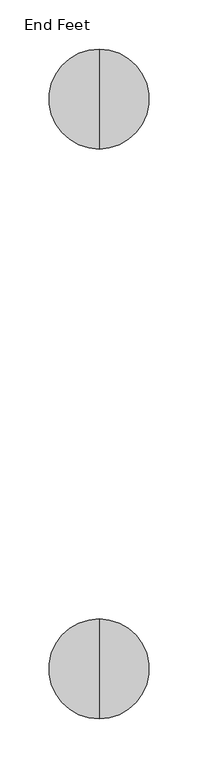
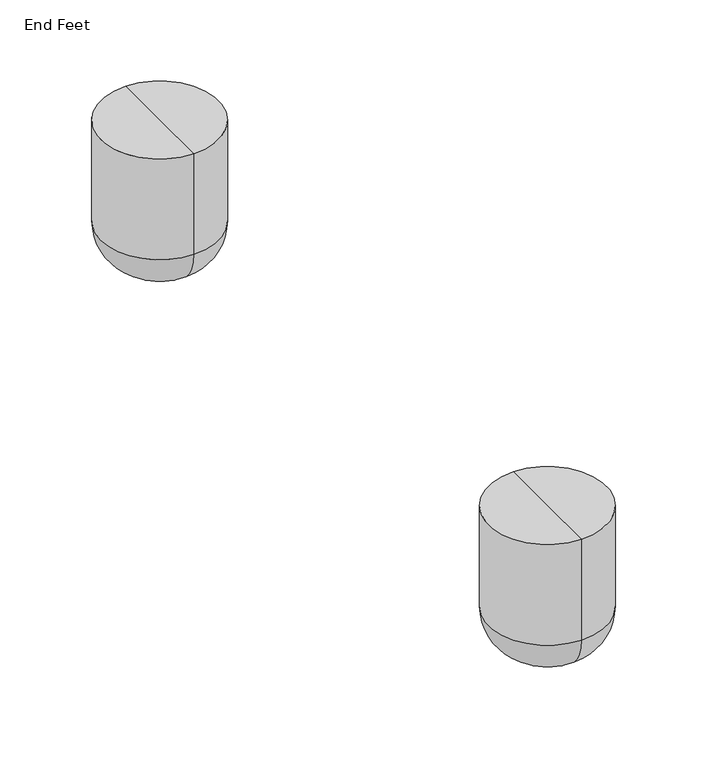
"""IFC4 building model written with IfcOpenShell, lengths in millimetres: furniture geometry, Coalesse_AM_Ensemble_Bench_EndOption : End Feet."""

from ifc_helpers import new_model, si_unit, point, frame, origin, place, context, project, spatial, circle_curve, ellipse_curve, trimmed, source, transform, mapped, element, save
from ifc_brep_helpers import plane_surface, cylinder_surface, revolved_surface, advanced_brep


def end_feet_fc13c2ef(model_context):
    return source(origin(), model_context, "Body", "AdvancedBrep", [
        advanced_brep(
        [(57.502012, -747.4877706, 130.0907271), (57.502012, -696.5184037, 130.0907271), (57.502012, -645.5490367, 130.0907271), (57.502012, -747.4877706, 38.1), (57.502012, -645.5490367, 38.1), (57.502012, -709.3877706, 0.0), (57.502012, -683.6490367, 0.0), (57.502012, -696.5184037, 0.0)],
        [
            (0, 1),
            (1, 2),
            (2, 0, circle_curve(frame((57.502012, -696.5184037, 130.0907271), z_axis=(0.0, 0.0, 1.0), x_axis=(0.0, 1.0, 0.0)), 50.969367)),
            (0, 2, circle_curve(frame((57.502012, -696.5184037, 130.0907271), z_axis=(0.0, 0.0, 1.0), x_axis=(0.0, 1.0, 0.0)), 50.969367)),
            (3, 0),
            (2, 4),
            (4, 3, circle_curve(frame((57.502012, -696.5184037, 38.1), z_axis=(0.0, 0.0, 1.0), x_axis=(0.0, 1.0, 0.0)), 50.969367)),
            (3, 4, circle_curve(frame((57.502012, -696.5184037, 38.1), z_axis=(0.0, 0.0, 1.0), x_axis=(0.0, 1.0, 0.0)), 50.969367)),
            (5, 3, circle_curve(frame((57.502012, -709.3877706, 38.1), z_axis=(-1.0, 0.0, 0.0), x_axis=(0.0, -1.0, 0.0)), 38.1)),
            (4, 6, circle_curve(frame((57.502012, -683.6490367, 38.1), z_axis=(-1.0, 0.0, 0.0), x_axis=(0.0, 1.0, 0.0)), 38.1)),
            (6, 5, circle_curve(frame((57.502012, -696.5184037, 0.0), z_axis=(0.0, 0.0, 1.0), x_axis=(0.0, 1.0, 0.0)), 12.869367)),
            (5, 6, circle_curve(frame((57.502012, -696.5184037, 0.0), z_axis=(0.0, 0.0, 1.0), x_axis=(0.0, 1.0, 0.0)), 12.869367)),
            (7, 5),
            (6, 7),
        ],
        [
            plane_surface(frame((57.502012, -696.5184037, 130.0907271), z_axis=(0.0, 0.0, 1.0), x_axis=(0.0, 1.0, 0.0))),
            cylinder_surface(frame((57.502012, -696.5184037, 130.0907271), z_axis=(0.0, 0.0, -1.0), x_axis=(0.0, 1.0, 0.0)), 50.969367),
            revolved_surface(trimmed(ellipse_curve(frame((57.502012, -683.6490367, 38.1), z_axis=(-1.0, 0.0, 0.0), x_axis=(0.0, 1.0, 0.0)), 38.1, 38.1), [point((57.502012, -645.5490367, 38.1))], [point((57.502012, -683.6490367, 0.0))], True, "CARTESIAN"), (57.502012, -696.5184037, 130.0907271), (0.0, 0.0, -1.0)),
            plane_surface(frame((57.502012, -696.5184037, 0.0), z_axis=(0.0, 0.0, -1.0), x_axis=(0.0, 1.0, 0.0))),
        ],
        [
            (0, [[1, 2, 3]]),
            (0, [[-2, -1, 4]]),
            (1, [[5, -3, 6, 7]]),
            (1, [[-6, -4, -5, 8]]),
            (2, [[9, -7, 10, 11]]),
            (2, [[-10, -8, -9, 12]]),
            (3, [[13, -11, 14]]),
            (3, [[-14, -12, -13]]),
        ],
    ),
        advanced_brep(
        [(57.502012, -166.4627706, 130.0907271), (57.502012, -115.4934037, 130.0907271), (57.502012, -64.5240367, 130.0907271), (57.502012, -166.4627706, 38.1), (57.502012, -64.5240367, 38.1), (57.502012, -128.3627706, 0.0), (57.502012, -102.6240367, 0.0), (57.502012, -115.4934037, 0.0)],
        [
            (0, 1),
            (1, 2),
            (2, 0, circle_curve(frame((57.502012, -115.4934037, 130.0907271), z_axis=(0.0, 0.0, 1.0), x_axis=(0.0, 1.0, 0.0)), 50.969367)),
            (0, 2, circle_curve(frame((57.502012, -115.4934037, 130.0907271), z_axis=(0.0, 0.0, 1.0), x_axis=(0.0, 1.0, 0.0)), 50.969367)),
            (3, 0),
            (2, 4),
            (4, 3, circle_curve(frame((57.502012, -115.4934037, 38.1), z_axis=(0.0, 0.0, 1.0), x_axis=(0.0, 1.0, 0.0)), 50.969367)),
            (3, 4, circle_curve(frame((57.502012, -115.4934037, 38.1), z_axis=(0.0, 0.0, 1.0), x_axis=(0.0, 1.0, 0.0)), 50.969367)),
            (5, 3, circle_curve(frame((57.502012, -128.3627706, 38.1), z_axis=(-1.0, 0.0, 0.0), x_axis=(0.0, -1.0, 0.0)), 38.1)),
            (4, 6, circle_curve(frame((57.502012, -102.6240367, 38.1), z_axis=(-1.0, 0.0, 0.0), x_axis=(0.0, 1.0, 0.0)), 38.1)),
            (6, 5, circle_curve(frame((57.502012, -115.4934037, 0.0), z_axis=(0.0, 0.0, 1.0), x_axis=(0.0, 1.0, 0.0)), 12.869367)),
            (5, 6, circle_curve(frame((57.502012, -115.4934037, 0.0), z_axis=(0.0, 0.0, 1.0), x_axis=(0.0, 1.0, 0.0)), 12.869367)),
            (7, 5),
            (6, 7),
        ],
        [
            plane_surface(frame((57.502012, -115.4934037, 130.0907271), z_axis=(0.0, 0.0, 1.0), x_axis=(0.0, 1.0, 0.0))),
            cylinder_surface(frame((57.502012, -115.4934037, 130.0907271), z_axis=(0.0, 0.0, -1.0), x_axis=(0.0, 1.0, 0.0)), 50.969367),
            revolved_surface(trimmed(ellipse_curve(frame((57.502012, -102.6240367, 38.1), z_axis=(-1.0, 0.0, 0.0), x_axis=(0.0, 1.0, 0.0)), 38.1, 38.1), [point((57.502012, -64.5240367, 38.1))], [point((57.502012, -102.6240367, 0.0))], True, "CARTESIAN"), (57.502012, -115.4934037, 130.0907271), (0.0, 0.0, -1.0)),
            plane_surface(frame((57.502012, -115.4934037, 0.0), z_axis=(0.0, 0.0, -1.0), x_axis=(0.0, 1.0, 0.0))),
        ],
        [
            (0, [[1, 2, 3]]),
            (0, [[-2, -1, 4]]),
            (1, [[5, -3, 6, 7]]),
            (1, [[-6, -4, -5, 8]]),
            (2, [[9, -7, 10, 11]]),
            (2, [[-10, -8, -9, 12]]),
            (3, [[13, -11, 14]]),
            (3, [[-14, -12, -13]]),
        ],
    ),
    ])


if __name__ == "__main__":
    model = new_model("IFC4")
    model_context = context("Model", 3, world=origin())
    ifc_project = project(units=[si_unit("LENGTHUNIT", "METRE", prefix="MILLI")], contexts=[model_context])
    site = spatial("IfcSite", under=ifc_project)
    building = spatial("IfcBuilding", under=site)
    placement = place(None, origin())
    end_feet_shape = end_feet_fc13c2ef(model_context)
    element("IfcFurniture", 1, ObjectType="Coalesse_AM_Ensemble_Bench_EndOption : End Feet", at=placement, inside=building, context=model_context, shape_type="MappedRepresentation", body=[
        mapped(end_feet_shape, transform((0.0, 0.0, 0.0), x_axis=(1.0, 0.0, 0.0), y_axis=(0.0, 1.0, 0.0), z_axis=(0.0, 0.0, 1.0))),
    ])
    save(model, "model.ifc")
